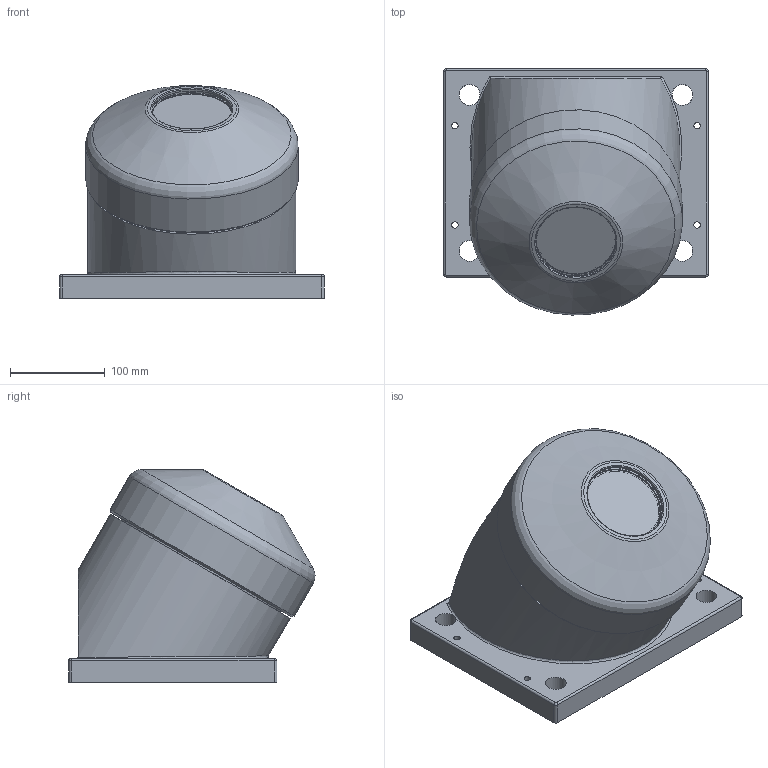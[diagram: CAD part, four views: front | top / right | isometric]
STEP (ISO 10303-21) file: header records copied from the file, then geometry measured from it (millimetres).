
FILE_DESCRIPTION(/* description */ (''),/* implementation_level */ '2;1');
FILE_NAME(/* name */ 'Z:\34-Tei\01-web 3Dデータ\SW車輪\SW-225-I.stp',/* time_stamp */ '2015-03-17T16:49:42+09:00',/* author */ ('yamaki'),/* organization */ (''),/* preprocessor_version */ 'ST-DEVELOPER v15.6',/* originating_system */ 'Autodesk Inventor 2015',/* authorisation */ '');
FILE_SCHEMA (('AUTOMOTIVE_DESIGN { 1 0 10303 214 3 1 1 }'));
Length unit declared in the file: centimetre
Products named in the file (1): SW-225-I
Bounding box: 280 x 260.45 x 224.97 mm (x, y, z)
Volume: 6161866.2 mm3; surface area: 484186 mm2
Topology: 2 solids, 4 shells, 127 faces, 264 edges, 168 vertices
Faces by surface type: cylinder 54, plane 43, cone 17, torus 8, bspline 5
Full cylindrical faces by diameter (mm): 6 x1, 6.647 x4, 10.5 x1, 22 x4, 35 x2, 43 x2, 45 x1, 46 x2, 56 x1, 58 x1, 72 x2, 80 x3, 80.1 x1, 81 x1, 84 x1, 85 x2, 88.5 x1, 90 x1, 135 x1, 155.1 x1, 159 x1, 166 x1, 183 x1, 195 x2, 201 x1, 220 x1, 225 x1
Entity records: 3439 total; most frequent: CARTESIAN_POINT 806, DIRECTION 548, ORIENTED_EDGE 366, AXIS2_PLACEMENT_3D 254, EDGE_LOOP 237, EDGE_CURVE 183, VERTEX_POINT 152, STYLED_ITEM 129
